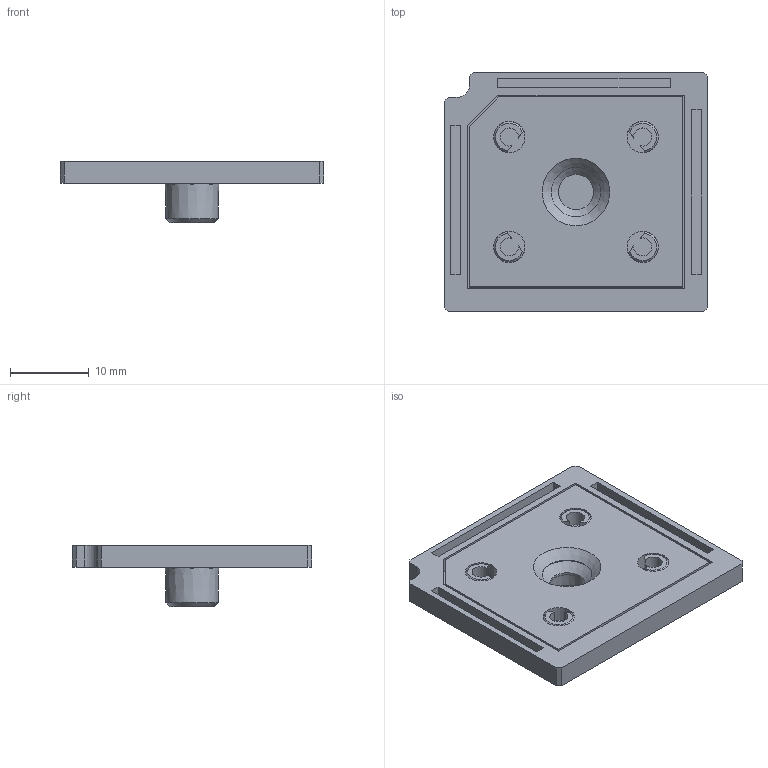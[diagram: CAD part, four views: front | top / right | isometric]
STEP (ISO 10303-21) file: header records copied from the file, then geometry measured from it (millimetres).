
FILE_DESCRIPTION(/* description */ ('Unknown','CAx-IF Rec.Pracs.---Representation and Presentation of Product Manufacturing Information (PMI)---4.0---2014-10-13','CAx-IF Rec.Pracs.---3D Tessellated Geometry---0.4---2014-09-14','2;1'),/* implementation_level */ '2;1');
FILE_NAME(/* name */ 'V23990-K03-T-01-27',/* time_stamp */ '2025-10-08T15:05:17+02:00',/* author */ ('Unknown'),/* organization */ ('Unknown'),/* preprocessor_version */ 'ST-DEVELOPER v20',/* originating_system */ 'Solid Edge',/* authorisation */ 'Unknown');
FILE_SCHEMA (('AP242_MANAGED_MODEL_BASED_3D_ENGINEERING_MIM_LF { 1 0 10303 442 1 1 4 }'));
Length unit declared in the file: millimetre
Products named in the file (3): NEW MiniSKiiP 2nd Generation Slim Lid Size 0_25121040; 41087150; 41087160
Assembly tree (2 placements, depth 2):
  NEW MiniSKiiP 2nd Generation Slim Lid Size 0_25121040
    41087150
    41087160
Bounding box: 33.5 x 30.5 x 7.8 mm (x, y, z)
Volume: 2596.1 mm3; surface area: 4588.5 mm2
Topology: 3 solids, 3 shells, 311 faces, 735 edges, 433 vertices
Faces by surface type: bspline 128, plane 74, cylinder 50, torus 42, cone 17
Full cylindrical faces by diameter (mm): 4 x4, 4.5 x2, 6.3 x1, 10 x1, 11.8 x1
Entity records: 10593 total; most frequent: CARTESIAN_POINT 4284, ORIENTED_EDGE 1414, DIRECTION 1114, EDGE_CURVE 707, AXIS2_PLACEMENT_3D 467, VERTEX_POINT 429, EDGE_LOOP 350, FACE_BOUND 350
